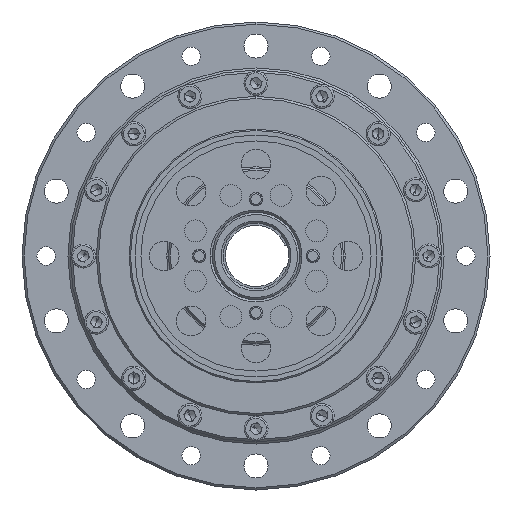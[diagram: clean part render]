
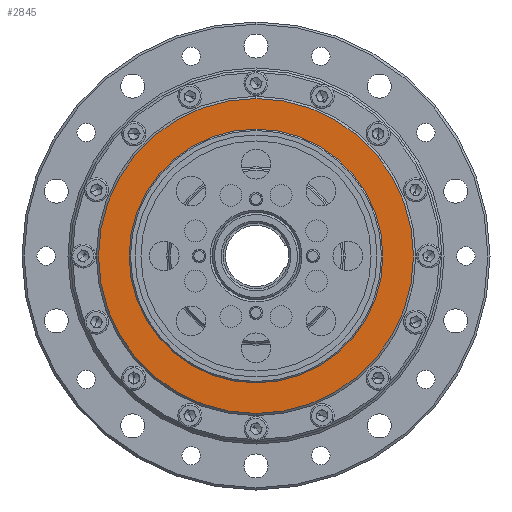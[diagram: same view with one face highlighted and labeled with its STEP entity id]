
A CAD part, left-side view. The second image highlights one B-rep face of the part: STEP entity #2845.
In plain terms, the highlighted planar face has unit normal (-1, 0, 0) as drawn and (0, 0, 1) by its records, which use the part's own axes.
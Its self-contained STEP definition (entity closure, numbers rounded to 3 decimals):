
#2220=PLANE('',#14726);
#2470=FACE_BOUND('',#4753,.T.);
#2471=FACE_BOUND('',#4754,.T.);
#2845=ADVANCED_FACE('',(#2470,#2471),#2220,.T.);
#4753=EDGE_LOOP('',(#7887,#7888));
#4754=EDGE_LOOP('',(#7889,#7890));
#7887=ORIENTED_EDGE('',*,*,#11820,.T.);
#7888=ORIENTED_EDGE('',*,*,#11905,.T.);
#7889=ORIENTED_EDGE('',*,*,#11731,.F.);
#7890=ORIENTED_EDGE('',*,*,#11883,.F.);
#10445=VERTEX_POINT('',#22851);
#10446=VERTEX_POINT('',#22852);
#10533=VERTEX_POINT('',#23049);
#10534=VERTEX_POINT('',#23051);
#11731=EDGE_CURVE('',#10445,#10446,#13249,.T.);
#11820=EDGE_CURVE('',#10534,#10533,#13293,.T.);
#11883=EDGE_CURVE('',#10446,#10445,#13345,.T.);
#11905=EDGE_CURVE('',#10533,#10534,#13367,.T.);
#13249=CIRCLE('',#14552,36.);
#13293=CIRCLE('',#14618,29.);
#13345=CIRCLE('',#14701,36.);
#13367=CIRCLE('',#14725,29.);
#14552=AXIS2_PLACEMENT_3D('',#22850,#17167,#17168);
#14618=AXIS2_PLACEMENT_3D('',#23050,#17344,#17345);
#14701=AXIS2_PLACEMENT_3D('',#23161,#17521,#17522);
#14725=AXIS2_PLACEMENT_3D('',#23185,#17569,#17570);
#14726=AXIS2_PLACEMENT_3D('',#23186,#17571,#17572);
#17167=DIRECTION('',(0.,0.,-1.));
#17168=DIRECTION('',(-1.,0.,0.));
#17344=DIRECTION('',(0.,0.,-1.));
#17345=DIRECTION('',(-1.,0.,0.));
#17521=DIRECTION('',(0.,0.,-1.));
#17522=DIRECTION('',(-1.,0.,0.));
#17569=DIRECTION('',(0.,0.,-1.));
#17570=DIRECTION('',(-1.,0.,0.));
#17571=DIRECTION('',(0.,0.,1.));
#17572=DIRECTION('',(1.,0.,0.));
#22850=CARTESIAN_POINT('',(0.,0.,18.01));
#22851=CARTESIAN_POINT('',(-36.,0.,18.01));
#22852=CARTESIAN_POINT('',(36.,0.,18.01));
#23049=CARTESIAN_POINT('',(29.,0.,18.01));
#23050=CARTESIAN_POINT('',(0.,0.,18.01));
#23051=CARTESIAN_POINT('',(-29.,0.,18.01));
#23161=CARTESIAN_POINT('',(0.,0.,18.01));
#23185=CARTESIAN_POINT('',(0.,0.,18.01));
#23186=CARTESIAN_POINT('',(0.,0.,18.01));
